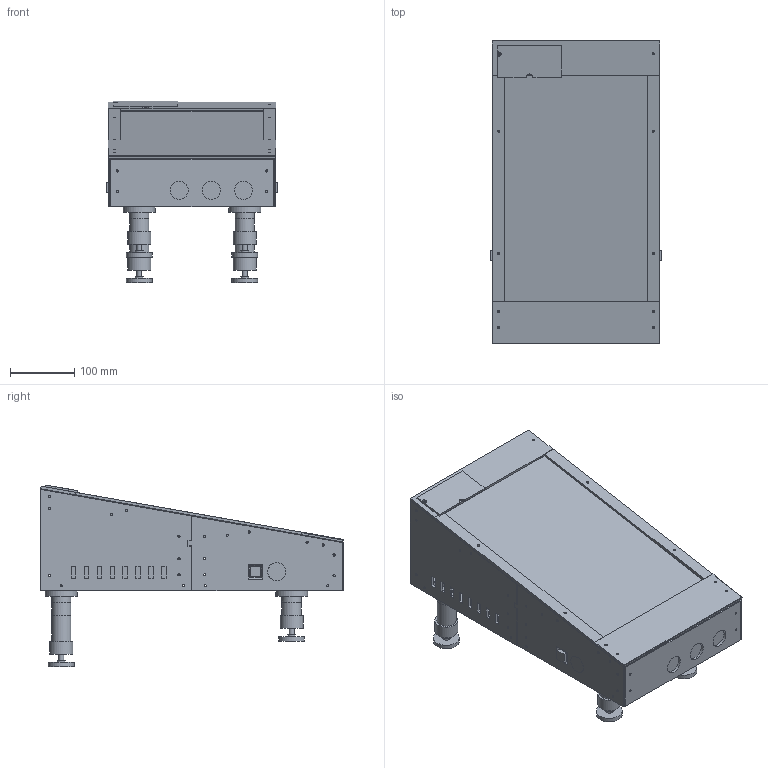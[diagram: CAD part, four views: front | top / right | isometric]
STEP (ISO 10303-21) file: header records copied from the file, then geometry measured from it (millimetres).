
FILE_DESCRIPTION(('Open CASCADE Model'),'2;1');
FILE_NAME('Open CASCADE Shape Model','2026-11-09T00:05:26',('Author'),( 'Open CASCADE'),'Open CASCADE STEP processor 7.8','Open CASCADE 7.8' ,'Unknown');
FILE_SCHEMA(('AUTOMOTIVE_DESIGN { 1 0 10303 214 1 1 1 1 }'));
Length unit declared in the file: millimetre
Products named in the file (89): Mini_VPin_Prototype_V1_12; left_front_wall; left_rear_wall; right_front_wall; right_rear_wall; front_button_panel; rear_vent_panel; corner_left_front_24; corner_left_front_56; corner_left_rear_24; corner_left_rear_128; corner_right_front_24; corner_right_front_56; corner_right_rear_24; corner_right_rear_128; splice_left; splice_right; floor_block_left_28; floor_block_left_218; floor_block_left_252; floor_block_left_442; floor_block_right_28; floor_block_right_218; floor_block_right_252; floor_block_right_442; bottom_front; bottom_rear; foot_backing_left_front; foot_receiver_left_front; foot_extension_left_front_1_20mm; foot_terminal_left_front; REFERENCE_swivel_rubber_pad_left_front; foot_backing_left_rear; foot_receiver_left_rear; foot_extension_left_rear_1_20mm; foot_extension_left_rear_2_40mm; foot_terminal_left_rear; REFERENCE_swivel_rubber_pad_left_rear; foot_backing_right_front; foot_receiver_right_front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
Assembly tree (88 placements, depth 2):
  Mini_VPin_Prototype_V1_12
    left_front_wall
    left_rear_wall
    right_front_wall
    right_rear_wall
    front_button_panel
    rear_vent_panel
    corner_left_front_24
    corner_left_front_56
    corner_left_rear_24
    corner_left_rear_128
    corner_right_front_24
    corner_right_front_56
    corner_right_rear_24
    corner_right_rear_128
    splice_left
    splice_right
    floor_block_left_28
    floor_block_left_218
    floor_block_left_252
    floor_block_left_442
    floor_block_right_28
    floor_block_right_218
    floor_block_right_252
    floor_block_right_442
    bottom_front
    bottom_rear
    foot_backing_left_front
    foot_receiver_left_front
    foot_extension_left_front_1_20mm
    foot_terminal_left_front
    REFERENCE_swivel_rubber_pad_left_front
    foot_backing_left_rear
    foot_receiver_left_rear
    foot_extension_left_rear_1_20mm
    foot_extension_left_rear_2_40mm
    foot_terminal_left_rear
    REFERENCE_swivel_rubber_pad_left_rear
    foot_backing_right_front
    foot_receiver_right_front
    foot_extension_right_front_1_20mm
    foot_terminal_right_front
    REFERENCE_swivel_rubber_pad_right_front
    foot_backing_right_rear
    foot_receiver_right_rear
    foot_extension_right_rear_1_20mm
    foot_extension_right_rear_2_40mm
    foot_terminal_right_rear
    REFERENCE_swivel_rubber_pad_right_rear
    top_block_left_25
    top_block_left_50
    top_block_left_140
    top_block_left_330
    top_block_left_450
    top_block_right_25
    top_block_right_50
    top_block_right_140
    top_block_right_330
    top_block_right_450
    monitor_saddle_left_180
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Bounding box: 267 x 470.54 x 282.59 mm (x, y, z)
Volume: 7633585.5 mm3; surface area: 1510487.5 mm2
Topology: 88 solids, 88 shells, 1639 faces, 4099 edges, 2730 vertices
Faces by surface type: plane 1300, cylinder 313, extrusion 20, bspline 4, cone 2
Full cylindrical faces by diameter (mm): 3.4 x158, 4.5 x52, 6 x2, 6.4 x2, 8 x4, 8.4 x16, 8.7 x14, 12 x4, 27.8 x2, 28 x5, 30 x10, 36 x4, 40 x6, 50 x8
Entity records: 114917 total; most frequent: CARTESIAN_POINT 29540, DIRECTION 15031, VECTOR 9559, LINE 9539, ORIENTED_EDGE 8198, PCURVE 8198, DEFINITIONAL_REPRESENTATION 8198, EDGE_CURVE 4099
